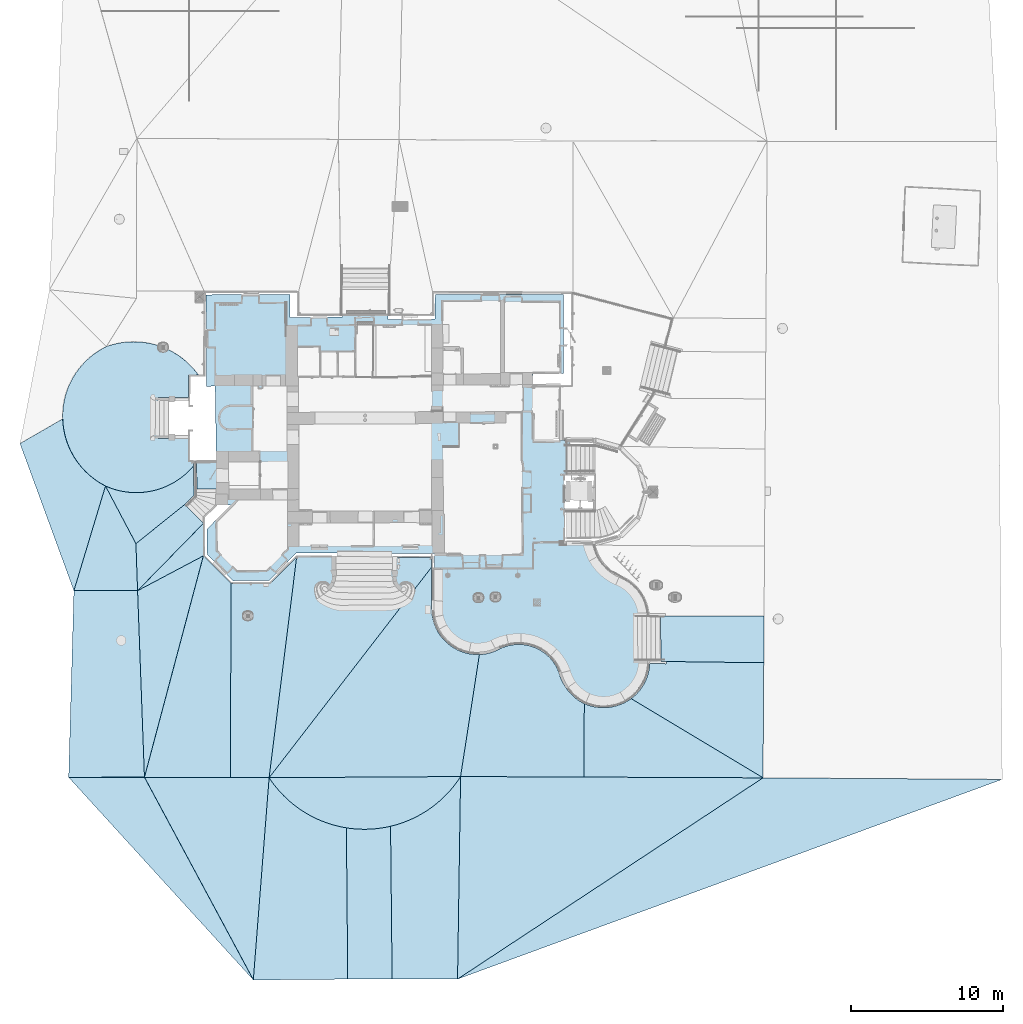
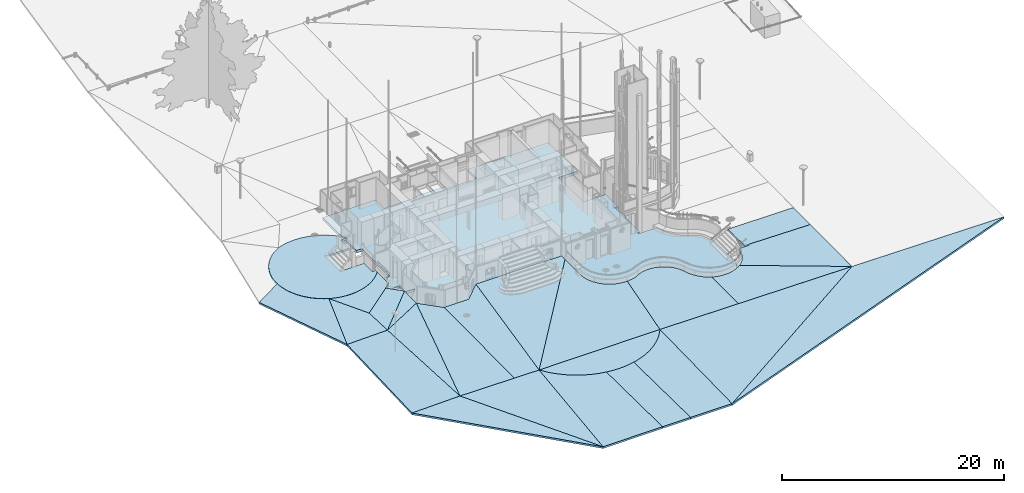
# One storey, part 6 of 133: 25 slabs.
"""IFC2X3 building model written with IfcOpenShell, lengths in centimetres."""

import ifcopenshell
import ifcopenshell.guid

model = None  # the IFC model being written
_history = None  # IfcOwnerHistory: only IFC2X3 demands one
_inside = {}  # id of a spatial element -> (the spatial element, [elements in it])
_under = {}  # id of a project, library or spatial element -> (it, [spatial elements below it])
_declared = {}  # id of a project -> (the project, [libraries it declares])
_typed = {}  # id of a type object -> (the type object, [elements of that type])
_made_of = {}  # id of a material, layer set ... -> (it, [elements and type objects made of it])


def new_model(schema):
    """Start an empty IFC model of exactly this schema.

    Asked for "IFC4X3", IfcOpenShell would pick the latest addendum, in which some entities
    have other attributes; the version numbers below select the first issue.
    IFC2X3 requires an IfcOwnerHistory on every rooted entity: one is made here for all.
    """
    global model, _history
    if schema == "IFC4X3":
        model = ifcopenshell.file(schema_version=(4, 3, 0, 0))
    else:
        model = ifcopenshell.file(schema=schema)
    _inside.clear()
    _under.clear()
    _declared.clear()
    _typed.clear()
    _made_of.clear()
    _history = None
    if model.schema == "IFC2X3":
        org = make("IfcOrganization", Name="unknown")
        user = make(
            "IfcPersonAndOrganization",
            ThePerson=make("IfcPerson", FamilyName="unknown"),
            TheOrganization=org,
        )
        app = make(
            "IfcApplication",
            ApplicationDeveloper=org,
            Version="unknown",
            ApplicationFullName="unknown",
            ApplicationIdentifier="unknown",
        )
        _history = make(
            "IfcOwnerHistory",
            OwningUser=user,
            OwningApplication=app,
            ChangeAction="ADDED",
            CreationDate=0,
        )
    return model


def make(cls, **values):
    """One entity of the class cls with the attributes given. An attribute that is None is left unset."""
    return model.create_entity(
        cls, **{name: value for name, value in values.items() if value is not None}
    )


def entity(cls, *values):
    """Any entity or typed value of the class cls, its attributes in the order of the schema. None: left unset."""
    e = model.create_entity(cls)
    for i, value in enumerate(values):
        if value is not None:
            e[i] = value
    return e


def rooted(cls, **values):
    """An entity with a GlobalId (a new one), such as an element, a storey or a relation."""
    return make(cls, GlobalId=ifcopenshell.guid.new(), OwnerHistory=_history, **values)


def si_unit(unit_type, name, prefix=None):
    """IfcSIUnit, for example si_unit("LENGTHUNIT", "METRE", prefix="MILLI")."""
    return make("IfcSIUnit", UnitType=unit_type, Prefix=prefix, Name=name)


def converted_unit(unit_type, name, factor, base, dimensions=None, offset=None):
    """IfcConversionBasedUnit, such as the inch: factor (a typed value) times the base unit."""
    return make(
        "IfcConversionBasedUnit"
        if offset is None
        else "IfcConversionBasedUnitWithOffset",
        ConversionOffset=offset,
        Dimensions=None
        if dimensions is None
        else entity("IfcDimensionalExponents", *dimensions),
        UnitType=unit_type,
        Name=name,
        ConversionFactor=make(
            "IfcMeasureWithUnit", ValueComponent=factor, UnitComponent=base
        ),
    )


def assignment(units):
    """IfcUnitAssignment: the units of a project."""
    return None if units is None else make("IfcUnitAssignment", Units=units)


def point(xyz):
    """IfcCartesianPoint."""
    return None if xyz is None else make("IfcCartesianPoint", Coordinates=xyz)


def direction(xyz):
    """IfcDirection."""
    return None if xyz is None else make("IfcDirection", DirectionRatios=xyz)


def frame(location, z_axis=None, x_axis=None):
    """IfcAxis2Placement3D, a coordinate frame: its origin and axes. An axis left out is left unset."""
    return make(
        "IfcAxis2Placement3D",
        Location=point(location),
        Axis=direction(z_axis),
        RefDirection=direction(x_axis),
    )


def frame_2d(location, x_axis=None):
    """IfcAxis2Placement2D, a coordinate frame in the plane: its origin and x axis."""
    return make(
        "IfcAxis2Placement2D", Location=point(location), RefDirection=direction(x_axis)
    )


def origin():
    """The frame at (0, 0, 0) with its axes left unset."""
    return frame((0.0, 0.0, 0.0))


def origin_with_axes():
    """The frame at (0, 0, 0) with the z axis (0, 0, 1) and the x axis (1, 0, 0) written out."""
    return frame((0.0, 0.0, 0.0), z_axis=(0.0, 0.0, 1.0), x_axis=(1.0, 0.0, 0.0))


def place(relative_to, where):
    """IfcLocalPlacement: puts the frame where relative to a parent placement (None: the world)."""
    return make(
        "IfcLocalPlacement", PlacementRelTo=relative_to, RelativePlacement=where
    )


def context(
    kind, dimensions, precision=None, world=None, true_north=None, identifier=None
):
    """IfcGeometricRepresentationContext, for example the 3D "Model" context."""
    return make(
        "IfcGeometricRepresentationContext",
        ContextIdentifier=identifier,
        ContextType=kind,
        CoordinateSpaceDimension=dimensions,
        Precision=precision,
        WorldCoordinateSystem=world,
        TrueNorth=true_north,
    )


def subcontext(parent, identifier, kind, view, scale=None):
    """IfcGeometricRepresentationSubContext, for example "Body" below "Model"."""
    return make(
        "IfcGeometricRepresentationSubContext",
        ContextIdentifier=identifier,
        ContextType=kind,
        ParentContext=parent,
        TargetScale=scale,
        TargetView=view,
    )


def project(units=None, contexts=None):
    """IfcProject with its units and contexts."""
    return rooted(
        "IfcProject",
        Name="project",
        RepresentationContexts=contexts,
        UnitsInContext=assignment(units),
    )


def spatial(cls, under=None, at=None, **own):
    """A site, building, storey or space (cls), placed at a placement, below another one or the project."""
    s = rooted(cls, ObjectPlacement=at, **own)
    if under is not None:
        _under.setdefault(under.id(), (under, []))[1].append(s)
    return s


def polyline(points):
    """IfcPolyline through the points."""
    return make("IfcPolyline", Points=[point(p) for p in points])


def circle_curve(where, radius):
    """IfcCircle in the frame where."""
    return make("IfcCircle", Position=where, Radius=radius)


def trimmed(basis, trim1, trim2, sense, master):
    """IfcTrimmedCurve: the piece of a basis curve between two trims."""
    return make(
        "IfcTrimmedCurve",
        BasisCurve=basis,
        Trim1=trim1,
        Trim2=trim2,
        SenseAgreement=sense,
        MasterRepresentation=master,
    )


def segment(curve, same_sense, transition):
    """IfcCompositeCurveSegment."""
    return make(
        "IfcCompositeCurveSegment",
        Transition=transition,
        SameSense=same_sense,
        ParentCurve=curve,
    )


def composite_curve(segments, self_intersect=None):
    """IfcCompositeCurve: segments joined end to end."""
    return make("IfcCompositeCurve", Segments=segments, SelfIntersect=self_intersect)


def outline(outer, holes=None, kind="AREA"):
    """IfcArbitraryClosedProfileDef: a profile drawn as a closed curve; with holes, ...WithVoids."""
    if holes is None:
        return make("IfcArbitraryClosedProfileDef", ProfileType=kind, OuterCurve=outer)
    return make(
        "IfcArbitraryProfileDefWithVoids",
        ProfileType=kind,
        OuterCurve=outer,
        InnerCurves=holes,
    )


def extrude(swept, where, along, depth):
    """IfcExtrudedAreaSolid: the profile swept, set in the frame where, extruded along a direction by depth."""
    return make(
        "IfcExtrudedAreaSolid",
        SweptArea=swept,
        Position=where,
        ExtrudedDirection=direction(along),
        Depth=depth,
    )


def shape(context_of_items, identifier, shape_type, items):
    """IfcShapeRepresentation: the items that make up one representation, for example the "Body"."""
    return make(
        "IfcShapeRepresentation",
        ContextOfItems=context_of_items,
        RepresentationIdentifier=identifier,
        RepresentationType=shape_type,
        Items=items,
    )


def material(Name=None, Category=None):
    """IfcMaterial."""
    return make("IfcMaterial", Name=Name, Category=Category)


def layer(
    of_material, thickness, ventilated=None, Name=None, Category=None, Priority=None
):
    """IfcMaterialLayer: one layer of a wall or slab, of a material (None: an air gap)."""
    return make(
        "IfcMaterialLayer",
        Material=of_material,
        LayerThickness=thickness,
        IsVentilated=ventilated,
        Name=Name,
        Category=Category,
        Priority=Priority,
    )


def layer_set(layers, Name=None):
    """IfcMaterialLayerSet."""
    return make("IfcMaterialLayerSet", MaterialLayers=layers, LayerSetName=Name)


def layer_usage(for_layer_set, set_direction, sense, offset, extent=None):
    """IfcMaterialLayerSetUsage: how a layer set lies in its element."""
    return make(
        "IfcMaterialLayerSetUsage",
        ForLayerSet=for_layer_set,
        LayerSetDirection=set_direction,
        DirectionSense=sense,
        OffsetFromReferenceLine=offset,
        ReferenceExtent=extent,
    )


def made_of(thing, what):
    """Note that an element or type object is made of a material, layer set ...; save() writes the relation."""
    if what is not None:
        _made_of.setdefault(what.id(), (what, []))[1].append(thing)
    return thing


def type_object(cls, material=None, **own):
    """A type object (cls), such as IfcWallType, which elements share."""
    return made_of(rooted(cls, **own), material)


def element(
    cls,
    number,
    at=None,
    inside=None,
    cuts=None,
    type_object=None,
    material=None,
    context=None,
    identifier="Body",
    shape_type=None,
    held_by="IfcProductDefinitionShape",
    body=None,
    shapes=None,
    **own,
):
    """One element of the class cls, such as IfcWall. Its Tag is "e" and its number.

    at: its placement. inside: the storey or other place that contains it. cuts: it is an
    opening in that element (IfcRelVoidsElement). A single representation is given by context,
    identifier, shape_type and body (its items); several are given by shapes. held_by: the class
    of the entity that holds the representations. save() writes the other relations.
    """
    e = rooted(cls, Tag="e%d" % number, ObjectPlacement=at, **own)
    if body is not None:
        shapes = [shape(context, identifier, shape_type, body)]
    if shapes is not None:
        e.Representation = make(held_by, Representations=shapes)
    if inside is not None:
        _inside.setdefault(inside.id(), (inside, []))[1].append(e)
    if cuts is not None:
        rooted(
            "IfcRelVoidsElement", RelatingBuildingElement=cuts, RelatedOpeningElement=e
        )
    if type_object is not None:
        _typed.setdefault(type_object.id(), (type_object, []))[1].append(e)
    return made_of(e, material)


def aggregate(whole, parts):
    """IfcRelAggregates: a whole, such as a stair, and the parts it consists of."""
    return rooted("IfcRelAggregates", RelatingObject=whole, RelatedObjects=parts)


def save(model, path):
    """Write the relations noted so far, then the file.

    IfcRelAggregates (storeys below a building ...), IfcRelContainedInSpatialStructure (elements
    in a storey), IfcRelDefinesByType, IfcRelAssociatesMaterial and IfcRelDeclares: one each for
    every whole, place, type object, material and project.
    """
    for whole, parts in _under.values():
        aggregate(whole, parts)
    for where, things in _inside.values():
        rooted(
            "IfcRelContainedInSpatialStructure",
            RelatedElements=things,
            RelatingStructure=where,
        )
    for kind, things in _typed.values():
        rooted("IfcRelDefinesByType", RelatedObjects=things, RelatingType=kind)
    for what, things in _made_of.values():
        rooted("IfcRelAssociatesMaterial", RelatedObjects=things, RelatingMaterial=what)
    for by, libraries in _declared.values():
        rooted("IfcRelDeclares", RelatingContext=by, RelatedDefinitions=libraries)
    model.write(path)


model = new_model("IFC2X3")

# Units and contexts
model_context = context("Model", 3, precision=0.0001, world=origin(), true_north=direction((0.225632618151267, 0.974212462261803, 0.0)))
body_context = subcontext(model_context, "Body", "Model", "MODEL_VIEW")
ifc_project = project(units=[si_unit("LENGTHUNIT", "METRE", prefix="CENTI"), si_unit("AREAUNIT", "SQUARE_METRE", prefix="CENTI"), si_unit("VOLUMEUNIT", "CUBIC_METRE", prefix="CENTI"), converted_unit("PLANEANGLEUNIT", "DEGREE", entity("IfcRatioMeasure", 0.0174532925), si_unit("PLANEANGLEUNIT", "RADIAN"), dimensions=[0, 0, 0, 0, 0, 0, 0])], contexts=[model_context])

# Site, building, storey
site_placement = place(None, origin_with_axes())
site = spatial("IfcSite", under=ifc_project, at=site_placement, Name="Default Site", CompositionType="ELEMENT")
building_placement = place(site_placement, origin_with_axes())
building = spatial("IfcBuilding", under=site, at=building_placement, Name="Default Building", CompositionType="ELEMENT")
storey_placement = place(building_placement, frame((0.0, 0.0, -291.400371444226), z_axis=(0.0, 0.0, 1.0), x_axis=(1.0, 0.0, 0.0)))
storey = spatial("IfcBuildingStorey", under=building, at=storey_placement, Name="Rez-de-Jardin", CompositionType="ELEMENT", Elevation=-291.400371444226)

# Slabs
ifc_material_1 = material(Name="Carreaux en céramique")
ifc_layer_1 = layer(ifc_material_1, 1.5)
ifc_material_2 = material(Name="Chape en béton léger")
ifc_layer_2 = layer(ifc_material_2, 4.0)
ifc_material_3 = material(Name="Béton armé")
ifc_layer_3 = layer(ifc_material_3, 13.0)
ifc_material_4 = material(Name="Enduit de chaux et plâtre")
ifc_layer_4 = layer(ifc_material_4, 1.5)
ifc_layer_set_1 = layer_set([ifc_layer_1, ifc_layer_2, ifc_layer_3, ifc_layer_4], Name="Dalle en béton armé")
ifc_layer_usage_1 = layer_usage(ifc_layer_set_1, "AXIS3", "POSITIVE", 0.0)
slab_type_1 = type_object("IfcSlabType", Name="Dalle en béton armé 200", PredefinedType="NOTDEFINED", material=ifc_layer_set_1)
slab_1_placement = place(storey_placement, frame((-39.0187183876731, -2748.17830458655, 86.5003714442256), z_axis=(0.0, 0.0, 1.0), x_axis=(0.815436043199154, 0.578847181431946, 0.0)))
element("IfcSlab", 1, at=slab_1_placement, inside=storey, type_object=slab_type_1, material=ifc_layer_usage_1, Name="Dalle 1824252", PredefinedType="NOTDEFINED", context=body_context, shape_type="SweptSolid", body=[
    extrude(outline(composite_curve([segment(polyline([(0.0, 0.0), (-573.636627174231, -826.006191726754), (-222.712576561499, -1075.11069466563), (564.886669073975, -0.00221925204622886)]), True, "CONTINUOUS"), segment(trimmed(circle_curve(frame_2d((282.446061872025, 694.212604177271), x_axis=(1.0, 0.0)), 749.471091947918), [point((564.886669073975, -0.00221925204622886))], [point((0.0, 0.0))], False, "CARTESIAN"), True, "CONTINUOUS")], self_intersect=False)), origin_with_axes(), (0.0, 0.0, 1.0), 20.0),
])
ifc_layer_usage_2 = layer_usage(ifc_layer_set_1, "AXIS3", "POSITIVE", 0.0)
slab_2_placement = place(storey_placement, frame((421.609776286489, -2421.1997904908, 86.5003714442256), z_axis=(0.0, 0.0, 1.0), x_axis=(0.999991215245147, -0.00419159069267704, 0.0)))
element("IfcSlab", 2, at=slab_2_placement, inside=storey, type_object=slab_type_1, material=ifc_layer_usage_2, Name="Dalle 1824255", PredefinedType="NOTDEFINED", context=body_context, shape_type="SweptSolid", body=[
    extrude(outline(polyline([(-0.00489347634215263, -0.00763221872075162), (-14.4102060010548, -1332.65760157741), (1989.63495945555, -0.12640283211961), (-0.00489347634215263, -0.00763221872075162)])), origin_with_axes(), (0.0, 0.0, 1.0), 20.0),
])
ifc_layer_usage_3 = layer_usage(ifc_layer_set_1, "AXIS3", "POSITIVE", 0.0)
slab_3_placement = place(storey_placement, frame((-1913.64632382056, -509.686873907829, 83.5097599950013), z_axis=(-0.0291793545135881, -0.00933809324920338, 0.999530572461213), x_axis=(-0.537887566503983, 0.84298025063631, -0.00782705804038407)))
element("IfcSlab", 3, at=slab_3_placement, inside=storey, type_object=slab_type_1, material=ifc_layer_usage_3, Name="Dalle 1824264", PredefinedType="NOTDEFINED", context=body_context, shape_type="SweptSolid", body=[
    extrude(outline(composite_curve([segment(trimmed(circle_curve(frame_2d((261.912850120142, -441.622551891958), x_axis=(1.0, 0.0)), 513.448015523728), [point((0.000107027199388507, 0.000114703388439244))], [point((523.807880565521, 0.0106190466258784))], False, "CARTESIAN"), True, "CONTINUOUS"), segment(polyline([(523.807880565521, 0.0106190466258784), (538.175080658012, 323.89534304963), (-468.764668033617, 545.874242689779), (0.000107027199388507, 0.000114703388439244)]), True, "CONTINUOUS")], self_intersect=False)), origin_with_axes(), (0.0, 0.0, 1.0), 20.0),
])
ifc_layer_usage_4 = layer_usage(ifc_layer_set_1, "AXIS3", "POSITIVE", 0.0)
slab_4_placement = place(storey_placement, frame((-557.533136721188, -3127.30855834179, 86.5), z_axis=(0.0, 0.0, 1.0), x_axis=(1.0, 0.0, 0.0)))
element("IfcSlab", 4, at=slab_4_placement, inside=storey, type_object=slab_type_1, material=ifc_layer_usage_4, Name="Dalle 1824258", PredefinedType="NOTDEFINED", context=body_context, shape_type="SweptSolid", body=[
    extrude(outline(composite_curve([segment(polyline([(227.997054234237, 368.746274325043), (236.875695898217, -626.472893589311), (-384.277858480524, -632.219953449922), (-280.344594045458, 698.491995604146)]), True, "CONTINUOUS"), segment(trimmed(circle_curve(frame_2d((347.163986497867, 1109.16301076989), x_axis=(1.0, 0.0)), 749.945132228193), [point((-280.344594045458, 698.491995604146))], [point((227.997054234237, 368.746274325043))], True, "CARTESIAN"), True, "CONTINUOUS")], self_intersect=False)), origin_with_axes(), (0.0, 0.0, 1.0), 20.0),
])
ifc_layer_usage_5 = layer_usage(ifc_layer_set_1, "AXIS3", "POSITIVE", 0.0)
slab_5_placement = place(storey_placement, frame((2316.11670029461, -2824.32950283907, 86.5), z_axis=(0.0, 0.0, 1.0), x_axis=(1.0, 0.0, 0.0)))
element("IfcSlab", 5, at=slab_5_placement, inside=storey, type_object=slab_type_1, material=ifc_layer_usage_5, Name="Dalle 1824256", PredefinedType="NOTDEFINED", context=body_context, shape_type="SweptSolid", body=[
    extrude(outline(polyline([(-1914.4177424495, -929.399632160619), (95.1100271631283, 394.663575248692), (1669.30771528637, 384.736056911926), (-1914.4177424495, -929.399632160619)])), origin_with_axes(), (0.0, 0.0, 1.0), 20.0),
])
ifc_layer_usage_6 = layer_usage(ifc_layer_set_1, "AXIS3", "POSITIVE", 0.0)
slab_6_placement = place(storey_placement, frame((-1913.74560357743, -509.639087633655, 84.107611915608), z_axis=(-0.0242153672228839, -0.0117274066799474, 0.99963797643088), x_axis=(0.466799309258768, -0.884362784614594, 0.000932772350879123)))
element("IfcSlab", 6, at=slab_6_placement, inside=storey, type_object=slab_type_1, material=ifc_layer_usage_6, Name="Dalle 1824260", PredefinedType="NOTDEFINED", context=body_context, shape_type="SweptSolid", body=[
    extrude(outline(polyline([(-0.00493232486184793, 8.83487731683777e-08), (428.846744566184, -0.00705715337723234), (707.714193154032, -134.926350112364), (512.122604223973, -505.43560195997), (-0.00493232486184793, 8.83487731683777e-08)])), origin_with_axes(), (0.0, 0.0, 1.0), 20.0),
])
ifc_layer_usage_7 = layer_usage(ifc_layer_set_1, "AXIS3", "POSITIVE", 0.0)
slab_7_placement = place(storey_placement, frame((-1657.56481985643, -2425.28960185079, 86.507817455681), z_axis=(-0.024036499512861, -0.0129115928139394, 0.99962769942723), x_axis=(0.473214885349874, -0.880947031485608, 0.0)))
element("IfcSlab", 7, at=slab_7_placement, inside=storey, type_object=slab_type_1, material=ifc_layer_usage_7, Name="Dalle 1824263", PredefinedType="NOTDEFINED", context=body_context, shape_type="SweptSolid", body=[
    extrude(outline(polyline([(-235.317863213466, -439.705075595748), (1514.09670094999, 0.114788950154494), (0.232785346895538, -0.118506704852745), (-235.317863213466, -439.705075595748)])), origin_with_axes(), (0.0, 0.0, 1.0), 20.0),
])
ifc_layer_usage_8 = layer_usage(ifc_layer_set_1, "AXIS3", "POSITIVE", 0.0)
slab_8_placement = place(storey_placement, frame((-1262.14811792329, -2821.51437915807, 86.5), z_axis=(0.0, 0.0, 1.0), x_axis=(1.0, 0.0, 0.0)))
element("IfcSlab", 8, at=slab_8_placement, inside=storey, type_object=slab_type_1, material=ifc_layer_usage_8, Name="Dalle 1824262", PredefinedType="NOTDEFINED", context=body_context, shape_type="SweptSolid", body=[
    extrude(outline(polyline([(424.27038715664, 392.697816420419), (-395.961882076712, 395.724379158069), (320.337122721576, -938.014132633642), (424.27038715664, 392.697816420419)])), origin_with_axes(), (0.0, 0.0, 1.0), 20.0),
])
ifc_layer_usage_9 = layer_usage(ifc_layer_set_1, "AXIS3", "POSITIVE", 0.0)
slab_9_placement = place(storey_placement, frame((-1702.66563676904, -1198.78337366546, 81.1063069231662), z_axis=(-0.0241061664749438, 0.00351462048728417, 0.999703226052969), x_axis=(-0.999709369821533, 0.000177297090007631, -0.0241069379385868)))
element("IfcSlab", 9, at=slab_9_placement, inside=storey, type_object=slab_type_1, material=ifc_layer_usage_9, Name="Dalle 1824261", PredefinedType="NOTDEFINED", context=body_context, shape_type="SweptSolid", body=[
    extrude(outline(polyline([(0.000822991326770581, 0.000422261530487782), (418.96652431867, -5.77315972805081e-10), (453.41704099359, 1227.55993801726), (-45.4368108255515, 1226.83429321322), (0.000822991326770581, 0.000422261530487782)])), origin_with_axes(), (0.0, 0.0, 1.0), 20.0),
])
ifc_layer_usage_10 = layer_usage(ifc_layer_set_1, "AXIS3", "POSITIVE", 0.0)
slab_type_2 = type_object("IfcSlabType", Name="Dalle en béton armé 200", PredefinedType="NOTDEFINED", material=ifc_layer_set_1)
slab_10_placement = place(storey_placement, frame((-1703.12244723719, -1198.29206068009, 81.1368750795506), z_axis=(-0.00126564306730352, -0.0210510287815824, 0.999777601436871), x_axis=(0.883715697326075, 0.46789551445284, 0.0109705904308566)))
element("IfcSlab", 10, at=slab_10_placement, inside=storey, type_object=slab_type_2, material=ifc_layer_usage_10, Name="Dalle 1824251", PredefinedType="NOTDEFINED", context=body_context, shape_type="SweptSolid", body=[
    extrude(outline(polyline([(-3.5527136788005e-13, 1.33226762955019e-13), (590.37719496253, 188.809347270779), (489.740449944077, 0.265985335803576), (-3.5527136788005e-13, 1.33226762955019e-13)])), origin_with_axes(), (0.0, 0.0, 1.0), 20.0),
])
ifc_layer_usage_11 = layer_usage(ifc_layer_set_1, "AXIS3", "POSITIVE", 0.0)
slab_11_placement = place(storey_placement, frame((-129.467420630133, -3203.57587311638, 86.5), z_axis=(0.0, 0.0, 1.0), x_axis=(1.0, 0.0, 0.0)))
element("IfcSlab", 11, at=slab_11_placement, inside=storey, type_object=slab_type_2, material=ifc_layer_usage_11, Name="Dalle 1824259", PredefinedType="NOTDEFINED", context=body_context, shape_type="SweptSolid", body=[
    extrude(outline(composite_curve([segment(polyline([(-200.068661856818, 445.013589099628), (-191.190020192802, -550.205578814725), (100.80997980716, -550.205578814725), (90.4487022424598, 455.39756852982)]), True, "CONTINUOUS"), segment(trimmed(circle_curve(frame_2d((-81.0730612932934, 1184.97987779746), x_axis=(1.0, 0.0)), 749.473189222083), [point((90.4487022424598, 455.39756852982))], [point((-200.068661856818, 445.013589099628))], False, "CARTESIAN"), True, "CONTINUOUS")], self_intersect=False)), origin_with_axes(), (0.0, 0.0, 1.0), 20.0),
])
ifc_layer_usage_12 = layer_usage(ifc_layer_set_1, "AXIS3", "POSITIVE", 0.0)
slab_12_placement = place(storey_placement, frame((-851.281601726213, -1577.42109442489, 86.5), z_axis=(0.0, 0.0, 1.0), x_axis=(1.0, 0.0, 0.0)))
element("IfcSlab", 12, at=slab_12_placement, inside=storey, type_object=slab_type_2, material=ifc_layer_usage_12, Name="Dalle 294738", PredefinedType="NOTDEFINED", context=body_context, shape_type="SweptSolid", body=[
    extrude(outline(polyline([(194.502277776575, 600.088952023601), (20.2564232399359, 426.07544626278), (-236.770544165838, 425.708396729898), (-241.499758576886, -850.463889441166), (13.4038709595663, -851.39546831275), (194.502277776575, 600.088952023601)])), origin_with_axes(), (0.0, 0.0, 1.0), 20.0),
])
ifc_layer_usage_13 = layer_usage(ifc_layer_set_1, "AXIS3", "POSITIVE", 0.0)
slab_13_placement = place(storey_placement, frame((-656.779590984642, -977.334283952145, 86.5003714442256), z_axis=(0.0, 0.0, 1.0), x_axis=(0.997172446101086, -0.0751472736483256, 0.0)))
element("IfcSlab", 13, at=slab_13_placement, inside=storey, type_object=slab_type_2, material=ifc_layer_usage_13, Name="Dalle 294737", PredefinedType="NOTDEFINED", context=body_context, shape_type="SweptSolid", body=[
    extrude(outline(polyline([(-0.000562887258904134, -4.05038199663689e-05), (886.391550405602, 63.7822996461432), (889.916699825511, 0.0215085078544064), (-71.5111390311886, -1460.98716587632), (-0.000562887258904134, -4.05038199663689e-05)])), origin_with_axes(), (0.0, 0.0, 1.0), 20.0),
])
ifc_layer_usage_14 = layer_usage(ifc_layer_set_1, "AXIS3", "POSITIVE", 0.0)
slab_14_placement = place(storey_placement, frame((245.117465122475, -1603.37263535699, 86.5), z_axis=(0.0, 0.0, 1.0), x_axis=(1.0, 0.0, 0.0)))
element("IfcSlab", 14, at=slab_14_placement, inside=storey, type_object=slab_type_2, material=ifc_layer_usage_14, Name="Dalle 294736", PredefinedType="NOTDEFINED", context=body_context, shape_type="SweptSolid", body=[
    extrude(outline(composite_curve([segment(trimmed(circle_curve(frame_2d((289.177742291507, 288.645317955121), x_axis=(1.0, 0.0)), 303.969949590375), [point((300.549230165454, -15.1118540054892))], [point((169.157954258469, 9.3730838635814))], False, "CARTESIAN"), True, "CONTINUOUS"), segment(trimmed(circle_curve(frame_2d((290.429596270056, 290.670706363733), x_axis=(1.0, 0.0)), 306.325257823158), [point((169.157954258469, 9.3730838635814))], [point((42.444716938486, 110.841167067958))], False, "CARTESIAN"), True, "CONTINUOUS"), segment(trimmed(circle_curve(frame_2d((300.354227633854, 289.496071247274), x_axis=(1.0, 0.0)), 313.743351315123), [point((42.444716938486, 110.841167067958))], [point((-11.2206305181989, 252.672189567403))], False, "CARTESIAN"), True, "CONTINUOUS"), segment(trimmed(circle_curve(frame_2d((1366.31157627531, 357.307575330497), x_axis=(1.0, 0.0)), 1381.50046858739), [point((-11.2206305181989, 252.672189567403))], [point((-14.895537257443, 328.839097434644))], False, "CARTESIAN"), True, "CONTINUOUS"), segment(trimmed(circle_curve(frame_2d((119077.09188302, 215.705740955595), x_axis=(1.0, 0.0)), 119092.041156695), [point((-14.895537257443, 328.839097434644))], [point((-14.4540210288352, 559.160325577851))], False, "CARTESIAN"), True, "CONTINUOUS"), segment(polyline([(-14.4540210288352, 559.160325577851), (-1082.99519588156, -825.443927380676), (176.496028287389, -817.827132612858), (300.549230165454, -15.1118540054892)]), True, "CONTINUOUS")], self_intersect=False)), origin_with_axes(), (0.0, 0.0, 1.0), 20.0),
])
ifc_layer_usage_15 = layer_usage(ifc_layer_set_1, "AXIS3", "POSITIVE", 0.0)
slab_15_placement = place(storey_placement, frame((-1227.35241795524, -1693.65924956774, 86.5), z_axis=(0.0, 0.0, 1.0), x_axis=(1.0, 0.0, 0.0)))
element("IfcSlab", 15, at=slab_15_placement, inside=storey, type_object=slab_type_2, material=ifc_layer_usage_15, Name="Dalle 294739", PredefinedType="NOTDEFINED", context=body_context, shape_type="SweptSolid", body=[
    extrude(outline(polyline([(-43.113747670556, 724.409932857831), (139.300272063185, 541.946551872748), (134.571057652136, -734.225734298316), (-430.757582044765, -732.130750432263), (-43.113747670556, 724.409932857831)])), origin_with_axes(), (0.0, 0.0, 1.0), 20.0),
])
ifc_layer_usage_16 = layer_usage(ifc_layer_set_1, "AXIS3", "POSITIVE", 0.0)
slab_16_placement = place(storey_placement, frame((-1334.67084709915, -377.24716297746, 93.603036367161), z_axis=(-0.0148447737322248, -0.00679023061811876, 0.999866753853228), x_axis=(-0.974703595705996, -0.222929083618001, -0.0159851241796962)))
element("IfcSlab", 16, at=slab_16_placement, inside=storey, type_object=slab_type_2, material=ifc_layer_usage_16, Name="Dalle 294947", PredefinedType="NOTDEFINED", context=body_context, shape_type="SweptSolid", body=[
    extrude(outline(composite_curve([segment(trimmed(circle_curve(frame_2d((297.146015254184, -390.819144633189), x_axis=(1.0, 0.0)), 490.957202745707), [point((0.00121040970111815, 0.00554737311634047))], [point((594.298116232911, 4.44089209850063e-14))], False, "CARTESIAN"), True, "CONTINUOUS"), segment(polyline([(594.298116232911, 4.44089209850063e-14), (483.716278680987, 414.349392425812), (113.906970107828, 235.303490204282), (41.6830284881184, 191.035573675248), (0.00121040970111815, 0.00554737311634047)]), True, "CONTINUOUS")], self_intersect=False)), origin_with_axes(), (0.0, 0.0, 1.0), 20.0),
])
ifc_layer_usage_17 = layer_usage(ifc_layer_set_1, "AXIS3", "POSITIVE", 0.0)
slab_17_placement = place(storey_placement, frame((-1393.32713279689, -631.932747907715, 91.0029057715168), z_axis=(-0.0112396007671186, -0.0112733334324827, 0.999873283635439), x_axis=(0.708165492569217, -0.706046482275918, 0.0)))
element("IfcSlab", 17, at=slab_17_placement, inside=storey, type_object=slab_type_2, material=ifc_layer_usage_17, Name="Dalle 294946", PredefinedType="NOTDEFINED", context=body_context, shape_type="SweptSolid", body=[
    extrude(outline(polyline([(174.803175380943, -3.88496716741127e-05), (19.998494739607, -0.244147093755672), (-1.50075502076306e-05, 1.83216435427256e-07), (-45.5456249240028, -408.315404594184), (180.76898344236, -619.882267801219), (174.803175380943, -3.88496716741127e-05)])), origin_with_axes(), (0.0, 0.0, 1.0), 20.0),
])
ifc_layer_usage_18 = layer_usage(ifc_layer_set_1, "AXIS3", "POSITIVE", 0.0)
slab_18_placement = place(storey_placement, frame((-1270.17729557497, -969.32601570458, 86.5026054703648), z_axis=(-0.0144434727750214, 0.00384398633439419, 0.999888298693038), x_axis=(-0.883399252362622, -0.468492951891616, -0.0109596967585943)))
element("IfcSlab", 18, at=slab_18_placement, inside=storey, type_object=slab_type_2, material=ifc_layer_usage_18, Name="Dalle 294945", PredefinedType="NOTDEFINED", context=body_context, shape_type="SweptSolid", body=[
    extrude(outline(polyline([(489.798474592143, 0.124710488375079), (1024.76719248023, 1105.2742761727), (0.000117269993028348, 0.00012648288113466), (489.798474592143, 0.124710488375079)])), origin_with_axes(), (0.0, 0.0, 1.0), 20.0),
])
ifc_layer_usage_19 = layer_usage(ifc_layer_set_1, "AXIS3", "POSITIVE", 0.0)
slab_19_placement = place(storey_placement, frame((2067.13008314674, -1495.92908228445, 86.5), z_axis=(0.0, 0.0, 1.0), x_axis=(1.0, 0.0, 0.0)))
element("IfcSlab", 19, at=slab_19_placement, inside=storey, type_object=slab_type_2, material=ifc_layer_usage_19, Name="Dalle 294731", PredefinedType="NOTDEFINED", context=body_context, shape_type="SweptSolid", body=[
    extrude(outline(polyline([(-297.653746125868, 131.8110367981), (-330.687471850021, 132.394528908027), (-326.939631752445, -167.468865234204), (-292.209852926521, -168.472113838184), (348.935316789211, -176.667630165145), (350.893276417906, 129.971761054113), (-297.653746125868, 131.8110367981)])), origin_with_axes(), (0.0, 0.0, 1.0), 20.0),
])
ifc_layer_usage_20 = layer_usage(ifc_layer_set_1, "AXIS3", "POSITIVE", 0.0)
slab_20_placement = place(storey_placement, frame((1930.66868515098, -1787.20113859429, 86.5), z_axis=(0.0, 0.0, 1.0), x_axis=(1.0, 0.0, 0.0)))
element("IfcSlab", 20, at=slab_20_placement, inside=storey, type_object=slab_type_2, material=ifc_layer_usage_20, Name="Dalle 294732", PredefinedType="NOTDEFINED", context=body_context, shape_type="SweptSolid", body=[
    extrude(outline(composite_curve([segment(trimmed(circle_curve(frame_2d((-597.368537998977, 130.228661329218), x_axis=(1.0, 0.0)), 333.568518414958), [point((-264.35868515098, 110.93113859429))], [point((-296.505804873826, -13.8184569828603))], False, "CARTESIAN"), True, "CONTINUOUS"), segment(trimmed(circle_curve(frame_2d((-568.265084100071, 122.206208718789), x_axis=(1.0, 0.0)), 303.900996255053), [point((-296.505804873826, -13.8184569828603))], [point((-386.706847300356, -121.499396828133))], False, "CARTESIAN"), True, "CONTINUOUS"), segment(polyline([(-386.706847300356, -121.499396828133), (480.563469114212, -642.338407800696), (485.396714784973, 114.604426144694), (-155.510223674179, 122.796897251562), (-156.181583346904, 107.806197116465), (-264.35868515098, 110.93113859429)]), True, "CONTINUOUS")], self_intersect=False)), origin_with_axes(), (0.0, 0.0, 1.0), 20.0),
])
ifc_layer_usage_21 = layer_usage(ifc_layer_set_1, "AXIS3", "POSITIVE", 0.0)
slab_21_placement = place(storey_placement, frame((-162.271119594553, -2489.34356056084, 86.5), z_axis=(0.0, 0.0, 1.0), x_axis=(1.0, 0.0, 0.0)))
element("IfcSlab", 21, at=slab_21_placement, inside=storey, type_object=slab_type_2, material=ifc_layer_usage_21, Name="Dalle 294735", PredefinedType="NOTDEFINED", context=body_context, shape_type="SweptSolid", body=[
    extrude(outline(composite_curve([segment(polyline([(-675.606611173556, 60.5269978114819), (583.884613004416, 68.1437925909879)]), True, "CONTINUOUS"), segment(trimmed(circle_curve(frame_2d((-48.269492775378, 470.745461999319), x_axis=(1.0, 0.0)), 749.471091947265), [point((583.884613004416, 68.1437925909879))], [point((-58.3857325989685, -278.657353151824))], False, "CARTESIAN"), True, "CONTINUOUS"), segment(trimmed(circle_curve(frame_2d((-48.176320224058, 471.097994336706), x_axis=(1.0, 0.0)), 749.824855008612), [point((-58.3857325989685, -278.657353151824))], [point((-675.606611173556, 60.5269978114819))], False, "CARTESIAN"), True, "CONTINUOUS")], self_intersect=False)), origin_with_axes(), (0.0, 0.0, 1.0), 20.0),
])
ifc_layer_usage_22 = layer_usage(ifc_layer_set_1, "AXIS3", "POSITIVE", 0.0)
slab_22_placement = place(storey_placement, frame((953.211936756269, -1810.29530570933, 86.5), z_axis=(0.0, 0.0, 1.0), x_axis=(1.0, 0.0, 0.0)))
element("IfcSlab", 22, at=slab_22_placement, inside=storey, type_object=slab_type_2, material=ifc_layer_usage_22, Name="Dalle 294734", PredefinedType="NOTDEFINED", context=body_context, shape_type="SweptSolid", body=[
    extrude(outline(composite_curve([segment(trimmed(circle_curve(frame_2d((422.010134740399, 151.350125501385), x_axis=(1.0, 0.0)), 315.63675755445), [point((282.206270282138, -131.636521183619))], [point((166.611878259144, -34.1176434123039))], False, "CARTESIAN"), True, "CONTINUOUS"), segment(trimmed(circle_curve(frame_2d((425.582714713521, 155.658592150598), x_axis=(1.0, 0.0)), 321.062164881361), [point((166.611878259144, -34.1176434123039))], [point((122.678931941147, 49.2151231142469))], False, "CARTESIAN"), True, "CONTINUOUS"), segment(trimmed(circle_curve(frame_2d((-140.775092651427, -17.4990927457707), x_axis=(1.0, 0.0)), 271.769773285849), [point((122.678931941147, 49.2151231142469))], [point((23.4492796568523, 199.039968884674))], True, "CARTESIAN"), True, "CONTINUOUS"), segment(trimmed(circle_curve(frame_2d((-147.910437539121, -19.2567253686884), x_axis=(1.0, 0.0)), 277.520448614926), [point((23.4492796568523, 199.039968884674))], [point((-144.51744644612, 258.242980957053))], True, "CARTESIAN"), True, "CONTINUOUS"), segment(trimmed(circle_curve(frame_2d((-148.584025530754, -27.2104629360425), x_axis=(1.0, 0.0)), 285.482408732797), [point((-144.51744644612, 258.242980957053))], [point((-275.15877169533, 228.678261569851))], True, "CARTESIAN"), True, "CONTINUOUS"), segment(trimmed(circle_curve(frame_2d((-412.54354588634, 465.933442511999), x_axis=(1.0, 0.0)), 274.161625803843), [point((-275.15877169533, 228.678261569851))], [point((-407.777259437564, 191.813250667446))], False, "CARTESIAN"), True, "CONTINUOUS"), segment(polyline([(-407.777259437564, 191.813250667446), (-531.598443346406, -610.904462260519), (280.183085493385, -614.307163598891), (282.206270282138, -131.636521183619)]), True, "CONTINUOUS")], self_intersect=False)), origin_with_axes(), (0.0, 0.0, 1.0), 20.0),
])
ifc_layer_usage_23 = layer_usage(ifc_layer_set_1, "AXIS3", "POSITIVE", 0.0)
slab_23_placement = place(storey_placement, frame((1651.78634588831, -2129.17846064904, 86.5), z_axis=(0.0, 0.0, 1.0), x_axis=(1.0, 0.0, 0.0)))
element("IfcSlab", 23, at=slab_23_placement, inside=storey, type_object=slab_type_2, material=ifc_layer_usage_23, Name="Dalle 294733", PredefinedType="NOTDEFINED", context=body_context, shape_type="SweptSolid", body=[
    extrude(outline(composite_curve([segment(trimmed(circle_curve(frame_2d((-291.417631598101, 476.048810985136), x_axis=(1.0, 0.0)), 314.673365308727), [point((-107.829827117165, 220.481119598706))], [point((-416.368138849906, 187.246633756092))], False, "CARTESIAN"), True, "CONTINUOUS"), segment(polyline([(-416.368138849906, 187.246633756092), (-418.391323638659, -295.424008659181), (759.445808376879, -300.361085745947), (-107.829827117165, 220.481119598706)]), True, "CONTINUOUS")], self_intersect=False)), origin_with_axes(), (0.0, 0.0, 1.0), 20.0),
])
ifc_layer_usage_24 = layer_usage(ifc_layer_set_1, "AXIS3", "POSITIVE", 0.0)
slab_24_placement = place(storey_placement, frame((-1368.23727240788, 70.7382055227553, 93.0027018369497), z_axis=(-0.0164365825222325, 6.48086032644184e-05, 0.999864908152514), x_axis=(-0.00394291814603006, -0.999992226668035, 0.0)))
element("IfcSlab", 24, at=slab_24_placement, inside=storey, type_object=slab_type_2, material=ifc_layer_usage_24, Name="Dalle 294948", PredefinedType="NOTDEFINED", context=body_context, shape_type="SweptSolid", body=[
    extrude(outline(composite_curve([segment(polyline([(447.992181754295, 35.3649896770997), (420.511635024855, 34.9820456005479), (420.528971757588, 1.65190244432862), (269.448807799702, 1.57331783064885), (269.25006901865, -199.421910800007), (-0.717999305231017, -199.154973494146), (0.00556223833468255, 1.54282520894), (-149.500357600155, 1.22107166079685), (-149.458787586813, 65.4845861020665)]), True, "CONTINUOUS"), segment(trimmed(circle_curve(frame_2d((158.044705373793, -359.932248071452), x_axis=(1.0, 0.0)), 524.917022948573), [point((-149.458787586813, 65.4845861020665))], [point((-334.284127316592, -542.004215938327))], True, "CARTESIAN"), True, "CONTINUOUS"), segment(trimmed(circle_curve(frame_2d((124.59455297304, -315.589182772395), x_axis=(1.0, 0.0)), 511.696600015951), [point((-334.284127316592, -542.004215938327))], [point((582.756812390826, -543.450444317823))], True, "CARTESIAN"), True, "CONTINUOUS"), segment(trimmed(circle_curve(frame_2d((134.733514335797, -342.666731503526), x_axis=(1.0, 0.0)), 490.957202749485), [point((582.756812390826, -543.450444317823))], [point((447.992181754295, 35.3649896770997))], True, "CARTESIAN"), True, "CONTINUOUS")], self_intersect=False)), origin_with_axes(), (0.0, 0.0, 1.0), 20.0),
])
ifc_material_5 = material(Name="Carreaux en céramique")
ifc_layer_5 = layer(ifc_material_5, 1.5)
ifc_material_6 = material(Name="Chape ordinaire")
ifc_layer_6 = layer(ifc_material_6, 4.0)
ifc_material_7 = material(Name="Dalle plane terre-cuite-ciment isolée")
ifc_layer_7 = layer(ifc_material_7, 22.5)
ifc_material_8 = material(Name="Enduit intérieur")
ifc_layer_8 = layer(ifc_material_8, 1.0)
ifc_layer_set_2 = layer_set([ifc_layer_5, ifc_layer_6, ifc_layer_7, ifc_layer_8], Name="Plancher en brique-ciment")
ifc_layer_usage_25 = layer_usage(ifc_layer_set_2, "AXIS3", "POSITIVE", 0.0)
slab_type_3 = type_object("IfcSlabType", Name="Plancher en brique-ciment 290", PredefinedType="NOTDEFINED", material=ifc_layer_set_2)
slab_25_placement = place(storey_placement, frame((-105.1479349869, -185.613656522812, -29.0), z_axis=(0.0, 0.0, 1.0), x_axis=(1.0, 0.0, 0.0)))
element("IfcSlab", 25, at=slab_25_placement, inside=storey, type_object=slab_type_3, material=ifc_layer_usage_25, Name="Enveloppe horizontale 73501", PredefinedType="NOTDEFINED", context=body_context, shape_type="SweptSolid", body=[
    extrude(outline(composite_curve([segment(trimmed(circle_curve(frame_2d((1794.91245758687, -594.685971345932), x_axis=(1.0, 0.0)), 430.7141442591), [point((1378.9360808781, -706.392408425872))], [point((1661.14284901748, -1004.10063386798))], True, "CARTESIAN"), True, "CONTINUOUS"), segment(polyline([(1661.14284901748, -1004.10063386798), (1724.11586553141, -1160.27765412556), (1727.47158463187, -1489.64675027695)]), True, "CONTINUOUS"), segment(trimmed(circle_curve(frame_2d((1430.56106907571, -1452.50807138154), x_axis=(1.0, 0.0)), 299.224223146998), [point((1727.47158463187, -1489.64675027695))], [point((1563.69373817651, -1720.48349588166))], False, "CARTESIAN"), True, "CONTINUOUS"), segment(trimmed(circle_curve(frame_2d((1485.42951807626, -1402.98685538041), x_axis=(1.0, 0.0)), 327.000619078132), [point((1563.69373817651, -1720.48349588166))], [point((1250.96760494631, -1630.92767263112))], False, "CARTESIAN"), True, "CONTINUOUS"), segment(trimmed(circle_curve(frame_2d((1420.13352639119, -1505.31840954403), x_axis=(1.0, 0.0)), 210.700726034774), [point((1250.96760494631, -1630.92767263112))], [point((1209.43585604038, -1504.1836583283))], False, "CARTESIAN"), True, "CONTINUOUS"), segment(trimmed(circle_curve(frame_2d((970.956984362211, -1622.04495531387), x_axis=(1.0, 0.0)), 266.01401760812), [point((1209.43585604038, -1504.1836583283))], [point((1120.39498469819, -1401.97282709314))], True, "CARTESIAN"), True, "CONTINUOUS"), segment(polyline([(1120.39498469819, -1401.97282709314), (912.441905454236, -1314.60093066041), (673.690220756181, -1385.76254414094), (505.311544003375, -1359.15723187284), (421.950938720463, -1289.21935095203), (354.799332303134, -1109.50008358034), (356.025191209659, -767.217369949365), (-64.3964476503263, -768.83919897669), (-172.421396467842, -763.402729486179), (-554.51941725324, -763.956325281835), (-730.040385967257, -945.308018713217), (-969.423880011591, -947.652767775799), (-1139.56887453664, -775.571457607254), (-1141.37328397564, -607.669510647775), (-984.669435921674, -449.248012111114), (-1084.48214286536, -448.215663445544), (-1083.41376973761, -342.762250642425), (-1207.71832980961, -343.143951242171), (-1210.10601302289, -163.026141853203), (-1081.46893319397, -164.504828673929), (-1080.8313054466, -95.2341772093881), (-1087.65348511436, 332.241000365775), (-1143.67633788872, 331.558645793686), (-1146.84175007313, 933.563001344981), (-596.961078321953, 936.857086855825), (-595.350550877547, 783.499527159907), (-248.844895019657, 786.712569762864), (-250.287383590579, 804.593672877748), (50.1522599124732, 804.251345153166), (50.3305437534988, 771.934405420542), (358.928789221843, 773.624494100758), (360.336494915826, 935.039726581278), (1203.53088792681, 935.589459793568), (1203.86907955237, 416.862782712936), (1002.3043739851, 413.326308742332), (1010.03526517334, -27.3032050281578), (1243.33855194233, -23.209874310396), (1242.17661708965, -247.800125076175), (1206.40388594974, -248.937403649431), (1209.08782411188, -333.359813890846), (1218.9479349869, -333.046343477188), (1221.7938918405, -422.564999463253), (1209.9479349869, -423.686343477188), (1212.54531064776, -690.986529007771), (1184.20157182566, -691.325092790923), (1184.61976588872, -706.260868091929), (1378.9360808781, -706.392408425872)]), True, "CONTINUOUS")], self_intersect=False)), origin_with_axes(), (0.0, 0.0, 1.0), 29.0),
])

save(model, "model.ifc")
